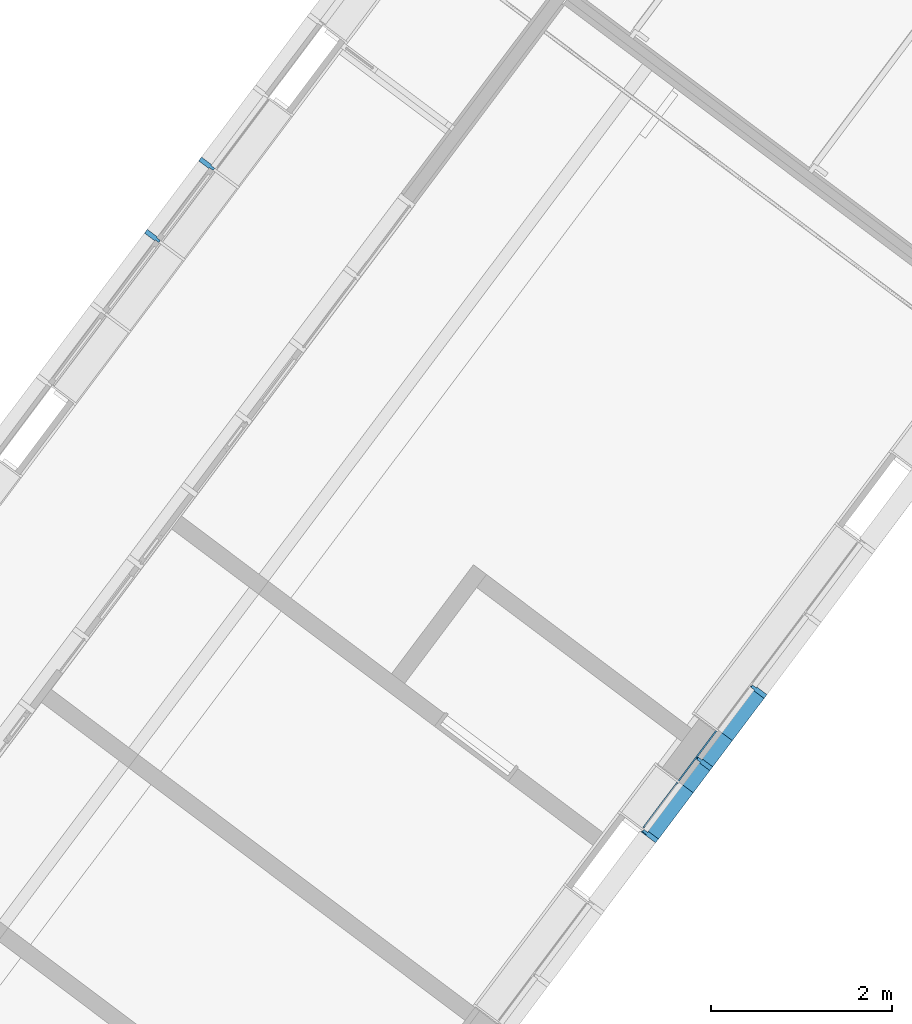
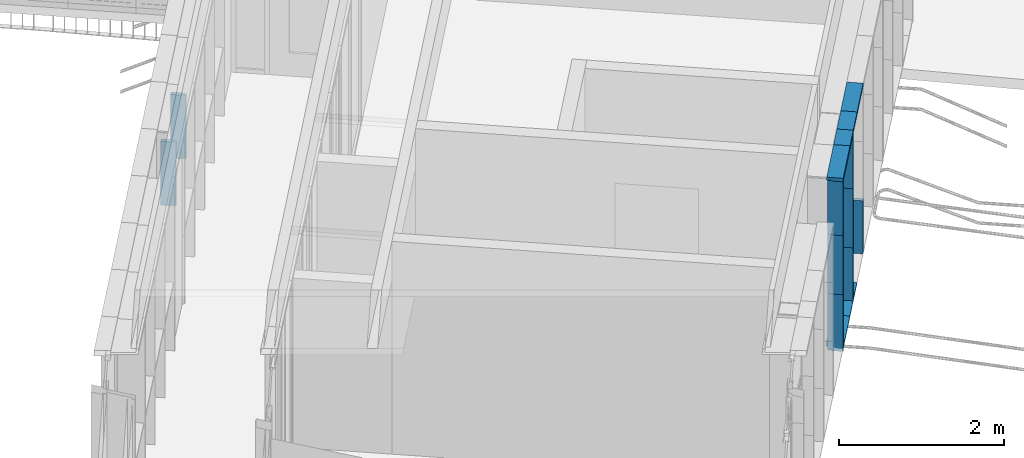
# One storey, part 87 of 243: 16 members, 2 elements without a shape of their own.
"""IFC2X3 building model written with IfcOpenShell, lengths in metres."""

from ifc_helpers import new_model, entity, si_unit, converted_unit, derived_unit, direction, frame, frame_2d, origin, place, context, subcontext, project, spatial, polyline, circle_curve, parameter, trimmed, segment, composite_curve, outline, extrude, source, transform, mapped, material, type_object, type_shapes, element, aggregate, save


model = new_model("IFC2X3")

# Units and contexts
model_context = context("Model", 3, precision=1e-05, world=origin(), true_north=direction((6.123031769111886e-17, 1.0)))
body_context = subcontext(model_context, "Body", "Model", "MODEL_VIEW")
ifc_project = project(units=[si_unit("LENGTHUNIT", "METRE"), si_unit("AREAUNIT", "SQUARE_METRE"), si_unit("VOLUMEUNIT", "CUBIC_METRE"), converted_unit("PLANEANGLEUNIT", "DEGREE", entity("IfcRatioMeasure", 0.017453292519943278), si_unit("PLANEANGLEUNIT", "RADIAN"), dimensions=[0, 0, 0, 0, 0, 0, 0]), si_unit("MASSUNIT", "GRAM", prefix="KILO"), derived_unit("MASSDENSITYUNIT", [(si_unit("MASSUNIT", "GRAM", prefix="KILO"), 1), (si_unit("LENGTHUNIT", "METRE"), -3)]), derived_unit("IONCONCENTRATIONUNIT", [(si_unit("MASSUNIT", "GRAM", prefix="KILO"), 1), (si_unit("LENGTHUNIT", "METRE"), -3)]), derived_unit("MOMENTOFINERTIAUNIT", [(si_unit("LENGTHUNIT", "METRE"), 4)]), si_unit("TIMEUNIT", "SECOND"), si_unit("FREQUENCYUNIT", "HERTZ"), si_unit("THERMODYNAMICTEMPERATUREUNIT", "DEGREE_CELSIUS"), derived_unit("THERMALTRANSMITTANCEUNIT", [(si_unit("MASSUNIT", "GRAM", prefix="KILO"), 1), (si_unit("THERMODYNAMICTEMPERATUREUNIT", "KELVIN"), -1), (si_unit("TIMEUNIT", "SECOND"), -3)]), derived_unit("THERMALCONDUCTANCEUNIT", [(si_unit("MASSUNIT", "GRAM", prefix="KILO"), 1), (si_unit("THERMODYNAMICTEMPERATUREUNIT", "KELVIN"), -1), (si_unit("TIMEUNIT", "SECOND"), -3), (si_unit("LENGTHUNIT", "METRE"), 1)]), derived_unit("VOLUMETRICFLOWRATEUNIT", [(si_unit("LENGTHUNIT", "METRE"), 3), (si_unit("TIMEUNIT", "SECOND"), -1)]), derived_unit("MASSFLOWRATEUNIT", [(si_unit("MASSUNIT", "GRAM", prefix="KILO"), 1), (si_unit("TIMEUNIT", "SECOND"), -1)]), derived_unit("ROTATIONALFREQUENCYUNIT", [(si_unit("TIMEUNIT", "SECOND"), -1)]), si_unit("ELECTRICCURRENTUNIT", "AMPERE"), si_unit("ELECTRICVOLTAGEUNIT", "VOLT"), si_unit("POWERUNIT", "WATT"), si_unit("FORCEUNIT", "NEWTON", prefix="KILO"), si_unit("ILLUMINANCEUNIT", "LUX"), si_unit("LUMINOUSFLUXUNIT", "LUMEN"), si_unit("LUMINOUSINTENSITYUNIT", "CANDELA"), derived_unit("USERDEFINED", [(si_unit("MASSUNIT", "GRAM", prefix="KILO"), -1), (si_unit("LENGTHUNIT", "METRE"), -2), (si_unit("TIMEUNIT", "SECOND"), 3), (si_unit("LUMINOUSFLUXUNIT", "LUMEN"), 1)]), derived_unit("USERDEFINED", [(si_unit("MASSUNIT", "GRAM", prefix="KILO"), 1), (si_unit("TIMEUNIT", "SECOND"), -3), (si_unit("LENGTHUNIT", "METRE"), 3), (si_unit("ELECTRICCURRENTUNIT", "AMPERE"), -2)]), derived_unit("SOUNDPOWERUNIT", [(si_unit("MASSUNIT", "GRAM", prefix="KILO"), 1), (si_unit("TIMEUNIT", "SECOND"), -3), (si_unit("LENGTHUNIT", "METRE"), 2)]), derived_unit("SOUNDPRESSUREUNIT", [(si_unit("MASSUNIT", "GRAM", prefix="KILO"), 1), (si_unit("LENGTHUNIT", "METRE"), -1), (si_unit("TIMEUNIT", "SECOND"), -2)]), derived_unit("LINEARVELOCITYUNIT", [(si_unit("LENGTHUNIT", "METRE"), 1), (si_unit("TIMEUNIT", "SECOND"), -1)]), si_unit("PRESSUREUNIT", "PASCAL"), derived_unit("USERDEFINED", [(si_unit("MASSUNIT", "GRAM", prefix="KILO"), 1), (si_unit("LENGTHUNIT", "METRE"), -2), (si_unit("TIMEUNIT", "SECOND"), -2)]), derived_unit("LINEARFORCEUNIT", [(si_unit("MASSUNIT", "GRAM", prefix="KILO"), 1), (si_unit("TIMEUNIT", "SECOND"), -2)]), derived_unit("PLANARFORCEUNIT", [(si_unit("MASSUNIT", "GRAM", prefix="KILO"), 1), (si_unit("LENGTHUNIT", "METRE"), -1), (si_unit("TIMEUNIT", "SECOND"), -2)]), derived_unit("SPECIFICHEATCAPACITYUNIT", [(si_unit("THERMODYNAMICTEMPERATUREUNIT", "KELVIN"), -1), (si_unit("LENGTHUNIT", "METRE"), 2), (si_unit("TIMEUNIT", "SECOND"), -2)]), derived_unit("HEATINGVALUEUNIT", [(si_unit("LENGTHUNIT", "METRE"), 2), (si_unit("TIMEUNIT", "SECOND"), -2)]), derived_unit("VAPORPERMEABILITYUNIT", [(si_unit("LENGTHUNIT", "METRE"), -1), (si_unit("TIMEUNIT", "SECOND"), 1)]), derived_unit("DYNAMICVISCOSITYUNIT", [(si_unit("MASSUNIT", "GRAM", prefix="KILO"), 1), (si_unit("TIMEUNIT", "SECOND"), -1), (si_unit("LENGTHUNIT", "METRE"), -1)]), derived_unit("THERMALEXPANSIONCOEFFICIENTUNIT", [(si_unit("THERMODYNAMICTEMPERATUREUNIT", "KELVIN"), -1)]), derived_unit("MODULUSOFELASTICITYUNIT", [(si_unit("MASSUNIT", "GRAM", prefix="KILO"), 1), (si_unit("LENGTHUNIT", "METRE"), -1), (si_unit("TIMEUNIT", "SECOND"), -2)]), derived_unit("ISOTHERMALMOISTURECAPACITYUNIT", [(si_unit("LENGTHUNIT", "METRE"), 3), (si_unit("MASSUNIT", "GRAM", prefix="KILO"), -1)]), derived_unit("MOISTUREDIFFUSIVITYUNIT", [(si_unit("TIMEUNIT", "SECOND"), -1), (si_unit("LENGTHUNIT", "METRE"), 2)])], contexts=[model_context])

# Site, building, storey
site_placement = place(None, frame((0.0, 0.0, 235.0), z_axis=(0.0, 0.0, 1.0), x_axis=(-0.7996477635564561, 0.6004693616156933, 0.0)))
site = spatial("IfcSite", under=ifc_project, at=site_placement, Name="Default", CompositionType="ELEMENT")
building_placement = place(site_placement, origin())
building = spatial("IfcBuilding", under=site, at=building_placement, CompositionType="ELEMENT")
storey_placement = place(building_placement, origin())
storey = spatial("IfcBuildingStorey", under=building, at=storey_placement, Name="P0- Escola", CompositionType="ELEMENT", Elevation=0.0)

# Curtain wall, members
curtain_wall_type_1 = type_object("IfcCurtainWallType", Name="Muro cortina:MC- EXT- MC2", PredefinedType="NOTDEFINED")
curtain_wall_1_placement = place(storey_placement, origin())
curtain_wall_1 = element("IfcCurtainWall", 1, at=curtain_wall_1_placement, inside=storey, type_object=curtain_wall_type_1, Name="Muro cortina:MC- EXT- MC2", ObjectType="Muro cortina:MC- EXT- MC2")
ifc_material = material(Name="_Alumini- T1- Perfil")
member_type_1 = type_object("IfcMemberType", Name="Montante rectangular:MC- Alu- 140x52,5 cm- Fa patis- Centre", PredefinedType="MULLION", material=ifc_material)
shared_shape_1 = source(origin(), body_context, "Body", "SweptSolid", [
    extrude(outline(polyline([(-0.11699999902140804, -0.026250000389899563), (0.021999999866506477, -0.026250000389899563), (0.021999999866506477, -0.01500000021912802), (0.07299999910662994, -0.01500000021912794), (0.07299999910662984, 0.015000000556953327), (0.02200000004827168, 0.015000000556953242), (0.02200000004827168, 0.026250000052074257), (-0.11699999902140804, 0.026250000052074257), (-0.11699999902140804, -0.026250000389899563)])), frame((0.0, 0.022999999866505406, -0.8400000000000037), z_axis=(0.0, 0.0, 1.0), x_axis=(0.0, -1.0, 0.0)), (0.0, 0.0, 1.0), 0.8400000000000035),
])
type_shapes(member_type_1, [shared_shape_1])
member_1_placement = place(curtain_wall_1_placement, frame((28.345147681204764, -30.415191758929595, -0.02), z_axis=(0.0, 0.0, -1.0), x_axis=(0.0, -1.0, 0.0)))
member_1 = element("IfcMember", 2, at=member_1_placement, type_object=member_type_1, material=ifc_material, Name="Montante rectangular:MC- Alu- 140x52,5 cm- Fa patis- Centre", ObjectType="Montante rectangular:MC- Alu- 140x52,5 cm- Fa patis- Centre", context=body_context, shape_type="MappedRepresentation", body=[
    mapped(shared_shape_1, transform((0.0, 0.0, 0.0), scale=1.0)),
])
member_type_2 = type_object("IfcMemberType", Name="Montante rectangular:MC- Alu- 140x52,5 cm- Fa patis- Centre", PredefinedType="MULLION", material=ifc_material)
shared_shape_2 = source(origin(), body_context, "Body", "SweptSolid", [
    extrude(outline(polyline([(-0.11699999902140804, -0.026250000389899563), (0.021999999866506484, -0.026250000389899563), (0.021999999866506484, -0.01500000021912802), (0.07299999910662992, -0.01500000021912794), (0.07299999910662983, 0.015000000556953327), (0.022000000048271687, 0.015000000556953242), (0.022000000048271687, 0.026250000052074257), (-0.11699999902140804, 0.026250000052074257), (-0.11699999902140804, -0.026250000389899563)])), frame((0.0, 0.022999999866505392, -0.7850000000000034), z_axis=(0.0, 0.0, 1.0), x_axis=(0.0, -1.0, 0.0)), (0.0, 0.0, 1.0), 0.7850000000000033),
])
type_shapes(member_type_2, [shared_shape_2])
member_2_placement = place(curtain_wall_1_placement, frame((28.345147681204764, -31.415191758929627, 0.035000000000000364), z_axis=(0.0, 0.0, -1.0), x_axis=(0.0, -1.0, 0.0)))
member_2 = element("IfcMember", 3, at=member_2_placement, type_object=member_type_2, material=ifc_material, Name="Montante rectangular:MC- Alu- 140x52,5 cm- Fa patis- Centre", ObjectType="Montante rectangular:MC- Alu- 140x52,5 cm- Fa patis- Centre", context=body_context, shape_type="MappedRepresentation", body=[
    mapped(shared_shape_2, transform((0.0, 0.0, 0.0), scale=1.0)),
])
member_3_placement = place(curtain_wall_1_placement, frame((28.34514768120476, -32.41519175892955, 0.035000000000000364), z_axis=(0.0, 0.0, -1.0), x_axis=(0.0, -1.0, 0.0)))
member_3 = element("IfcMember", 4, at=member_3_placement, type_object=member_type_2, material=ifc_material, Name="Montante rectangular:MC- Alu- 140x52,5 cm- Fa patis- Centre", ObjectType="Montante rectangular:MC- Alu- 140x52,5 cm- Fa patis- Centre", context=body_context, shape_type="MappedRepresentation", body=[
    mapped(shared_shape_2, transform((0.0, 0.0, 0.0), scale=1.0)),
])
member_type_3 = type_object("IfcMemberType", Name="Montante rectangular:MC- Alu- 140x52,5 cm- Fa patis- Centre", PredefinedType="MULLION", material=ifc_material)
shared_shape_3 = source(origin(), body_context, "Body", "SweptSolid", [
    extrude(outline(polyline([(-0.11699999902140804, -0.026250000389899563), (0.021999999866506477, -0.026250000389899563), (0.021999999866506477, -0.01500000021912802), (0.07299999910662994, -0.01500000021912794), (0.07299999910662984, 0.015000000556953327), (0.02200000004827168, 0.015000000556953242), (0.02200000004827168, 0.026250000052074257), (-0.11699999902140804, 0.026250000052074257), (-0.11699999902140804, -0.026250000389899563)])), frame((0.0, 0.022999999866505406, -0.8750000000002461), z_axis=(0.0, 0.0, 1.0), x_axis=(0.0, -1.0, 0.0)), (0.0, 0.0, 1.0), 0.8750000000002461),
])
type_shapes(member_type_3, [shared_shape_3])
member_4_placement = place(curtain_wall_1_placement, frame((28.345147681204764, -30.415191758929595, 0.8200000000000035), z_axis=(0.0, 0.0, -1.0), x_axis=(0.0, -1.0, 0.0)))
member_4 = element("IfcMember", 5, at=member_4_placement, type_object=member_type_3, material=ifc_material, Name="Montante rectangular:MC- Alu- 140x52,5 cm- Fa patis- Centre", ObjectType="Montante rectangular:MC- Alu- 140x52,5 cm- Fa patis- Centre", context=body_context, shape_type="MappedRepresentation", body=[
    mapped(shared_shape_3, transform((0.0, 0.0, 0.0), scale=1.0)),
])
member_5_placement = place(curtain_wall_1_placement, frame((28.345147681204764, -31.415191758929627, 0.8200000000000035), z_axis=(0.0, 0.0, -1.0), x_axis=(0.0, -1.0, 0.0)))
member_5 = element("IfcMember", 6, at=member_5_placement, type_object=member_type_3, material=ifc_material, Name="Montante rectangular:MC- Alu- 140x52,5 cm- Fa patis- Centre", ObjectType="Montante rectangular:MC- Alu- 140x52,5 cm- Fa patis- Centre", context=body_context, shape_type="MappedRepresentation", body=[
    mapped(shared_shape_3, transform((0.0, 0.0, 0.0), scale=1.0)),
])
member_type_4 = type_object("IfcMemberType", Name="Montante rectangular:MC- Alu- 140x52,5 cm- Fa patis- Centre", PredefinedType="MULLION", material=ifc_material)
shared_shape_4 = source(origin(), body_context, "Body", "SweptSolid", [
    extrude(outline(polyline([(-0.11699999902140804, -0.026250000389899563), (0.021999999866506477, -0.026250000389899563), (0.021999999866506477, -0.01500000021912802), (0.07299999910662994, -0.01500000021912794), (0.07299999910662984, 0.015000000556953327), (0.02200000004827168, 0.015000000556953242), (0.02200000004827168, 0.026250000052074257), (-0.11699999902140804, 0.026250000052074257), (-0.11699999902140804, -0.026250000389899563)])), frame((0.0, 0.022999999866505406, -0.79749999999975), z_axis=(0.0, 0.0, 1.0), x_axis=(0.0, -1.0, 0.0)), (0.0, 0.0, 1.0), 0.79749999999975),
])
type_shapes(member_type_4, [shared_shape_4])
member_6_placement = place(curtain_wall_1_placement, frame((28.345147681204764, -30.415191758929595, 1.6950000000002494), z_axis=(0.0, 0.0, -1.0), x_axis=(0.0, -1.0, 0.0)))
member_6 = element("IfcMember", 7, at=member_6_placement, type_object=member_type_4, material=ifc_material, Name="Montante rectangular:MC- Alu- 140x52,5 cm- Fa patis- Centre", ObjectType="Montante rectangular:MC- Alu- 140x52,5 cm- Fa patis- Centre", context=body_context, shape_type="MappedRepresentation", body=[
    mapped(shared_shape_4, transform((0.0, 0.0, 0.0), scale=1.0)),
])
member_7_placement = place(curtain_wall_1_placement, frame((28.345147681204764, -31.415191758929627, 1.6950000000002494), z_axis=(0.0, 0.0, -1.0), x_axis=(0.0, -1.0, 0.0)))
member_7 = element("IfcMember", 8, at=member_7_placement, type_object=member_type_4, material=ifc_material, Name="Montante rectangular:MC- Alu- 140x52,5 cm- Fa patis- Centre", ObjectType="Montante rectangular:MC- Alu- 140x52,5 cm- Fa patis- Centre", context=body_context, shape_type="MappedRepresentation", body=[
    mapped(shared_shape_4, transform((0.0, 0.0, 0.0), scale=1.0)),
])
member_type_5 = type_object("IfcMemberType", Name="Montante rectangular:MC- Alu- 140x52,5 cm- Fa patis- Superior", PredefinedType="MULLION", material=ifc_material)
shared_shape_5 = source(origin(), body_context, "Body", "SweptSolid", [
    extrude(outline(polyline([(-0.11366666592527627, -0.021249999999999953), (0.02633333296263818, -0.021249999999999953), (0.02633333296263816, -0.010000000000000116), (0.08733333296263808, -0.010000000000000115), (0.08733333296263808, 0.03125000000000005), (-0.11366666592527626, 0.031250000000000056), (-0.11366666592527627, -0.021249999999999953)])), frame((-0.031250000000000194, 0.027333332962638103, -0.3333333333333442), z_axis=(0.0, 0.0, 1.0), x_axis=(0.0, -1.0, 0.0)), (0.0, 0.0, 1.0), 0.3333333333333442),
])
type_shapes(member_type_5, [shared_shape_5])
member_8_placement = place(curtain_wall_1_placement, frame((28.345147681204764, -31.415191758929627, 2.545), z_axis=(0.0, -1.0, 0.0), x_axis=(0.0, 0.0, 1.0)))
member_8 = element("IfcMember", 9, at=member_8_placement, type_object=member_type_5, material=ifc_material, Name="Montante rectangular:MC- Alu- 140x52,5 cm- Fa patis- Superior", ObjectType="Montante rectangular:MC- Alu- 140x52,5 cm- Fa patis- Superior", context=body_context, shape_type="MappedRepresentation", body=[
    mapped(shared_shape_5, transform((0.0, 0.0, 0.0), scale=1.0)),
])
member_type_6 = type_object("IfcMemberType", Name="Montante rectangular:MC- Alu- 140x52,5 cm- Fa patis- inferior", PredefinedType="MULLION", material=ifc_material)
shared_shape_6 = source(origin(), body_context, "Body", "SweptSolid", [
    extrude(outline(composite_curve([segment(polyline([(0.1278672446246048, -0.0258671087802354), (0.14416724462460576, -0.025867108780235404)]), True, "CONTINUOUS"), segment(polyline([(0.14416724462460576, -0.025867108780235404), (0.1441672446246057, 0.009132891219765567)]), True, "CONTINUOUS"), segment(polyline([(0.1441672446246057, 0.009132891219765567), (0.06786724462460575, 0.009132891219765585)]), True, "CONTINUOUS"), segment(polyline([(0.06786724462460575, 0.009132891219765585), (0.06786724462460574, -0.021159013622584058)]), True, "CONTINUOUS"), segment(polyline([(0.06786724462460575, -0.02115901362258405), (-0.030132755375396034, -0.012332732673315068)]), True, "CONTINUOUS"), segment(polyline([(-0.03013275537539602, -0.012332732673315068), (-0.030132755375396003, 0.027132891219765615)]), True, "CONTINUOUS"), segment(polyline([(-0.030132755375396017, 0.02713289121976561), (-0.0021327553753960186, 0.0271328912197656)]), True, "CONTINUOUS"), segment(polyline([(-0.0021327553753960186, 0.027132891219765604), (-0.0021327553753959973, 0.029132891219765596)]), True, "CONTINUOUS"), segment(polyline([(-0.0021327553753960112, 0.029132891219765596), (-0.032132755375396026, 0.029132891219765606)]), True, "CONTINUOUS"), segment(polyline([(-0.032132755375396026, 0.029132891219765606), (-0.03213275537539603, -0.012152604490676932)]), True, "CONTINUOUS"), segment(polyline([(-0.03213275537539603, -0.012152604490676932), (-0.0701327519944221, -0.008730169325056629)]), True, "CONTINUOUS"), segment(polyline([(-0.0701327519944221, -0.008730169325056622), (-0.0701327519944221, 0.005766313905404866)]), True, "CONTINUOUS"), segment(trimmed(circle_curve(frame_2d((-0.0696327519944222, 0.005766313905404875), x_axis=(-1.0, 0.0)), 0.0004999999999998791), [parameter(269.999999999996)], [parameter(0.0)], True, "PARAMETER"), False, "CONTINUOUS"), segment(polyline([(-0.0696327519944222, 0.00626631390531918), (-0.06213275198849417, 0.006266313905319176)]), True, "CONTINUOUS"), segment(polyline([(-0.06213275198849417, 0.006266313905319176), (-0.06213275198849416, 0.008266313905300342)]), True, "CONTINUOUS"), segment(polyline([(-0.06213275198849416, 0.008266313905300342), (-0.07013275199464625, 0.008266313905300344)]), True, "CONTINUOUS"), segment(trimmed(circle_curve(frame_2d((-0.07013275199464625, 0.006266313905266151), x_axis=(0.0, 1.0)), 0.0020000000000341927), [parameter(0.0)], [parameter(90.00000002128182)], True, "PARAMETER"), True, "CONTINUOUS"), segment(polyline([(-0.07213275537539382, 0.006266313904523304), (-0.07213275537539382, -0.008730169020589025)]), True, "CONTINUOUS"), segment(trimmed(circle_curve(frame_2d((-0.07013275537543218, -0.008730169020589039), x_axis=(-1.0, 0.0)), 0.0019999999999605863), [parameter(0.0)], [parameter(84.85359280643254)], True, "PARAMETER"), True, "CONTINUOUS"), segment(polyline([(-0.07031215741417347, -0.01072210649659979), (0.06786724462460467, -0.023167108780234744)]), True, "CONTINUOUS"), segment(polyline([(0.06786724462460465, -0.023167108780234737), (0.12786724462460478, -0.023167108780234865)]), True, "CONTINUOUS"), segment(polyline([(0.12786724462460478, -0.023167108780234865), (0.1278672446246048, -0.0258671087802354)]), True, "CONTINUOUS")], self_intersect=False)), frame((-0.029132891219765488, 0.06786724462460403, -0.38849999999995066), z_axis=(0.0, 0.0, 1.0), x_axis=(0.0, -1.0, 0.0)), (0.0, 0.0, 1.0), 0.38849999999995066),
])
type_shapes(member_type_6, [shared_shape_6])
member_9_placement = place(curtain_wall_1_placement, frame((28.345147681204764, -31.415191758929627, -0.02), z_axis=(0.0, 1.0, 0.0), x_axis=(0.0, 0.0, -1.0)))
member_9 = element("IfcMember", 10, at=member_9_placement, type_object=member_type_6, material=ifc_material, Name="Montante rectangular:MC- Alu- 140x52,5 cm- Fa patis- inferior", ObjectType="Montante rectangular:MC- Alu- 140x52,5 cm- Fa patis- inferior", context=body_context, shape_type="MappedRepresentation", body=[
    mapped(shared_shape_6, transform((0.0, 0.0, 0.0), scale=1.0)),
])
member_type_7 = type_object("IfcMemberType", Name="Montante rectangular:MC- Alu- 140x52,5 cm- Fa patis- Superior", PredefinedType="MULLION", material=ifc_material)
shared_shape_7 = source(origin(), body_context, "Body", "SweptSolid", [
    extrude(outline(polyline([(-0.11366666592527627, -0.021249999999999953), (0.02633333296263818, -0.021249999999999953), (0.02633333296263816, -0.010000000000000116), (0.08733333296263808, -0.010000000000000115), (0.08733333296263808, 0.03125000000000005), (-0.11366666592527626, 0.031250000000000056), (-0.11366666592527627, -0.021249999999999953)])), frame((-0.031250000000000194, 0.027333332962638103, -0.611499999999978), z_axis=(0.0, 0.0, 1.0), x_axis=(0.0, -1.0, 0.0)), (0.0, 0.0, 1.0), 0.611499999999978),
])
type_shapes(member_type_7, [shared_shape_7])
member_10_placement = place(curtain_wall_1_placement, frame((28.34514768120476, -32.41519175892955, 2.545), z_axis=(0.0, -1.0, 0.0), x_axis=(0.0, 0.0, 1.0)))
member_10 = element("IfcMember", 11, at=member_10_placement, type_object=member_type_7, material=ifc_material, Name="Montante rectangular:MC- Alu- 140x52,5 cm- Fa patis- Superior", ObjectType="Montante rectangular:MC- Alu- 140x52,5 cm- Fa patis- Superior", context=body_context, shape_type="MappedRepresentation", body=[
    mapped(shared_shape_7, transform((0.0, 0.0, 0.0), scale=1.0)),
])
member_type_8 = type_object("IfcMemberType", Name="Montante rectangular:MC- Alu- 140x52,5 cm- Fa patis- inferior", PredefinedType="MULLION", material=ifc_material)
shared_shape_8 = source(origin(), body_context, "Body", "SweptSolid", [
    extrude(outline(composite_curve([segment(polyline([(0.1278672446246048, -0.02586710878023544), (0.14416724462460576, -0.025867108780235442)]), True, "CONTINUOUS"), segment(polyline([(0.14416724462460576, -0.025867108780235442), (0.1441672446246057, 0.00913289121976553)]), True, "CONTINUOUS"), segment(polyline([(0.1441672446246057, 0.00913289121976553), (0.06786724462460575, 0.009132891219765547)]), True, "CONTINUOUS"), segment(polyline([(0.06786724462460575, 0.009132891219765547), (0.06786724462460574, -0.021159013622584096)]), True, "CONTINUOUS"), segment(polyline([(0.06786724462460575, -0.02115901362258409), (-0.030132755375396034, -0.012332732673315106)]), True, "CONTINUOUS"), segment(polyline([(-0.03013275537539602, -0.012332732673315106), (-0.030132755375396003, 0.027132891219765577)]), True, "CONTINUOUS"), segment(polyline([(-0.030132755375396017, 0.027132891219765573), (-0.0021327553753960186, 0.027132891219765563)]), True, "CONTINUOUS"), segment(polyline([(-0.0021327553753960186, 0.027132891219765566), (-0.0021327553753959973, 0.029132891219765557)]), True, "CONTINUOUS"), segment(polyline([(-0.0021327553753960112, 0.029132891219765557), (-0.032132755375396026, 0.029132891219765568)]), True, "CONTINUOUS"), segment(polyline([(-0.032132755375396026, 0.029132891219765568), (-0.03213275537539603, -0.01215260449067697)]), True, "CONTINUOUS"), segment(polyline([(-0.03213275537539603, -0.01215260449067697), (-0.0701327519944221, -0.008730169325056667)]), True, "CONTINUOUS"), segment(polyline([(-0.0701327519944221, -0.00873016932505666), (-0.0701327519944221, 0.005766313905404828)]), True, "CONTINUOUS"), segment(trimmed(circle_curve(frame_2d((-0.0696327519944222, 0.0057663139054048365), x_axis=(-1.0, 0.0)), 0.0004999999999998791), [parameter(269.999999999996)], [parameter(0.0)], True, "PARAMETER"), False, "CONTINUOUS"), segment(polyline([(-0.0696327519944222, 0.006266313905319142), (-0.06213275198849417, 0.006266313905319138)]), True, "CONTINUOUS"), segment(polyline([(-0.06213275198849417, 0.006266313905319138), (-0.06213275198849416, 0.008266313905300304)]), True, "CONTINUOUS"), segment(polyline([(-0.06213275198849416, 0.008266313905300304), (-0.07013275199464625, 0.008266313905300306)]), True, "CONTINUOUS"), segment(trimmed(circle_curve(frame_2d((-0.07013275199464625, 0.006266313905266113), x_axis=(0.0, 1.0)), 0.0020000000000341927), [parameter(0.0)], [parameter(90.00000002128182)], True, "PARAMETER"), True, "CONTINUOUS"), segment(polyline([(-0.07213275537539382, 0.006266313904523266), (-0.07213275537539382, -0.008730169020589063)]), True, "CONTINUOUS"), segment(trimmed(circle_curve(frame_2d((-0.07013275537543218, -0.008730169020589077), x_axis=(-1.0, 0.0)), 0.0019999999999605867), [parameter(0.0)], [parameter(84.85359280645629)], True, "PARAMETER"), True, "CONTINUOUS"), segment(polyline([(-0.07031215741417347, -0.010722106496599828), (0.06786724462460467, -0.023167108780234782)]), True, "CONTINUOUS"), segment(polyline([(0.06786724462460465, -0.023167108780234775), (0.12786724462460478, -0.023167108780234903)]), True, "CONTINUOUS"), segment(polyline([(0.12786724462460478, -0.023167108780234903), (0.1278672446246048, -0.02586710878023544)]), True, "CONTINUOUS")], self_intersect=False)), frame((-0.02913289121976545, 0.06786724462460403, -0.640416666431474), z_axis=(0.0, 0.0, 1.0), x_axis=(0.0, -1.0, 0.0)), (0.0, 0.0, 1.0), 0.640416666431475),
])
type_shapes(member_type_8, [shared_shape_8])
member_11_placement = place(curtain_wall_1_placement, frame((28.345147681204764, -30.441441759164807, -0.02), z_axis=(0.0, 1.0, 0.0), x_axis=(0.0, 0.0, -1.0)))
member_11 = element("IfcMember", 12, at=member_11_placement, type_object=member_type_8, material=ifc_material, Name="Montante rectangular:MC- Alu- 140x52,5 cm- Fa patis- inferior", ObjectType="Montante rectangular:MC- Alu- 140x52,5 cm- Fa patis- inferior", context=body_context, shape_type="MappedRepresentation", body=[
    mapped(shared_shape_8, transform((0.0, 0.0, 0.0), scale=1.0)),
])
member_type_9 = type_object("IfcMemberType", Name="Montante rectangular:MC- Alu- 140x52,5 cm- Fa patis- Superior", PredefinedType="MULLION", material=ifc_material)
shared_shape_9 = source(origin(), body_context, "Body", "SweptSolid", [
    extrude(outline(polyline([(-0.11366666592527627, -0.021249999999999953), (0.02633333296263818, -0.021249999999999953), (0.02633333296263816, -0.010000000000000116), (0.08733333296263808, -0.010000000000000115), (0.08733333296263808, 0.03125000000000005), (-0.11366666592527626, 0.031250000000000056), (-0.11366666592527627, -0.021249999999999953)])), frame((-0.031250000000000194, 0.027333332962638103, -0.6929166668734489), z_axis=(0.0, 0.0, 1.0), x_axis=(0.0, -1.0, 0.0)), (0.0, 0.0, 1.0), 0.6929166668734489),
])
type_shapes(member_type_9, [shared_shape_9])
member_12_placement = place(curtain_wall_1_placement, frame((28.345147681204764, -31.08185842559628, 2.545), z_axis=(0.0, -1.0, 0.0), x_axis=(0.0, 0.0, 1.0)))
member_12 = element("IfcMember", 13, at=member_12_placement, type_object=member_type_9, material=ifc_material, Name="Montante rectangular:MC- Alu- 140x52,5 cm- Fa patis- Superior", ObjectType="Montante rectangular:MC- Alu- 140x52,5 cm- Fa patis- Superior", context=body_context, shape_type="MappedRepresentation", body=[
    mapped(shared_shape_9, transform((0.0, 0.0, 0.0), scale=1.0)),
])
member_type_10 = type_object("IfcMemberType", Name="Montante rectangular:MC- Alu- 140x52,5 cm- Fa patis- inferior", PredefinedType="MULLION", material=ifc_material)
shared_shape_10 = source(origin(), body_context, "Body", "SweptSolid", [
    extrude(outline(composite_curve([segment(polyline([(0.1278672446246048, -0.025867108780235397), (0.14416724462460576, -0.0258671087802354)]), True, "CONTINUOUS"), segment(polyline([(0.14416724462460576, -0.0258671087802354), (0.1441672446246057, 0.009132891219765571)]), True, "CONTINUOUS"), segment(polyline([(0.1441672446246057, 0.009132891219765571), (0.06786724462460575, 0.009132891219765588)]), True, "CONTINUOUS"), segment(polyline([(0.06786724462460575, 0.009132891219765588), (0.06786724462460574, -0.021159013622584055)]), True, "CONTINUOUS"), segment(polyline([(0.06786724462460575, -0.021159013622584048), (-0.030132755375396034, -0.012332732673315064)]), True, "CONTINUOUS"), segment(polyline([(-0.03013275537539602, -0.012332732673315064), (-0.030132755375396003, 0.027132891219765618)]), True, "CONTINUOUS"), segment(polyline([(-0.030132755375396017, 0.027132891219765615), (-0.0021327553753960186, 0.027132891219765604)]), True, "CONTINUOUS"), segment(polyline([(-0.0021327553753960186, 0.027132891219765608), (-0.0021327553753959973, 0.0291328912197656)]), True, "CONTINUOUS"), segment(polyline([(-0.0021327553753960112, 0.0291328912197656), (-0.032132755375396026, 0.02913289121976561)]), True, "CONTINUOUS"), segment(polyline([(-0.032132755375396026, 0.02913289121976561), (-0.03213275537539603, -0.012152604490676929)]), True, "CONTINUOUS"), segment(polyline([(-0.03213275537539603, -0.012152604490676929), (-0.0701327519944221, -0.008730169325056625)]), True, "CONTINUOUS"), segment(polyline([(-0.0701327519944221, -0.008730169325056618), (-0.0701327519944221, 0.0057663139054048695)]), True, "CONTINUOUS"), segment(trimmed(circle_curve(frame_2d((-0.0696327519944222, 0.005766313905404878), x_axis=(-1.0, 0.0)), 0.0004999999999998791), [parameter(269.999999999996)], [parameter(0.0)], True, "PARAMETER"), False, "CONTINUOUS"), segment(polyline([(-0.0696327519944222, 0.006266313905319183), (-0.06213275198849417, 0.00626631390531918)]), True, "CONTINUOUS"), segment(polyline([(-0.06213275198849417, 0.00626631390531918), (-0.06213275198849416, 0.008266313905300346)]), True, "CONTINUOUS"), segment(polyline([(-0.06213275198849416, 0.008266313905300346), (-0.07013275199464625, 0.008266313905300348)]), True, "CONTINUOUS"), segment(trimmed(circle_curve(frame_2d((-0.07013275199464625, 0.0062663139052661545), x_axis=(0.0, 1.0)), 0.0020000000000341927), [parameter(0.0)], [parameter(90.00000002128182)], True, "PARAMETER"), True, "CONTINUOUS"), segment(polyline([(-0.07213275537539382, 0.006266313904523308), (-0.07213275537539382, -0.008730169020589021)]), True, "CONTINUOUS"), segment(trimmed(circle_curve(frame_2d((-0.07013275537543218, -0.008730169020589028), x_axis=(-1.0, 0.0)), 0.001999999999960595), [parameter(0.0)], [parameter(84.85359280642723)], True, "PARAMETER"), True, "CONTINUOUS"), segment(polyline([(-0.07031215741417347, -0.010722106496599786), (0.06786724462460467, -0.02316710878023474)]), True, "CONTINUOUS"), segment(polyline([(0.06786724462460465, -0.023167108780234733), (0.12786724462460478, -0.02316710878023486)]), True, "CONTINUOUS"), segment(polyline([(0.12786724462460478, -0.02316710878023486), (0.1278672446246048, -0.025867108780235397)]), True, "CONTINUOUS")], self_intersect=False)), frame((-0.02913289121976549, 0.06786724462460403, -0.3333333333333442), z_axis=(0.0, 0.0, 1.0), x_axis=(0.0, -1.0, 0.0)), (0.0, 0.0, 1.0), 0.3333333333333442),
])
type_shapes(member_type_10, [shared_shape_10])
member_13_placement = place(curtain_wall_1_placement, frame((28.345147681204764, -31.08185842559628, -0.02), z_axis=(0.0, 1.0, 0.0), x_axis=(0.0, 0.0, -1.0)))
member_13 = element("IfcMember", 14, at=member_13_placement, type_object=member_type_10, material=ifc_material, Name="Montante rectangular:MC- Alu- 140x52,5 cm- Fa patis- inferior", ObjectType="Montante rectangular:MC- Alu- 140x52,5 cm- Fa patis- inferior", context=body_context, shape_type="MappedRepresentation", body=[
    mapped(shared_shape_10, transform((0.0, 0.0, 0.0), scale=1.0)),
])
member_type_11 = type_object("IfcMemberType", Name="Montante rectangular:MC- Alu- 140x52,5 cm- Fa patis- Superior", PredefinedType="MULLION", material=ifc_material)
shared_shape_11 = source(origin(), body_context, "Body", "SweptSolid", [
    extrude(outline(polyline([(-0.11366666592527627, -0.021249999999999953), (0.02633333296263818, -0.021249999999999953), (0.02633333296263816, -0.010000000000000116), (0.08733333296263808, -0.010000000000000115), (0.08733333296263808, 0.03125000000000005), (-0.11366666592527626, 0.031250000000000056), (-0.11366666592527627, -0.021249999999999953)])), frame((-0.031250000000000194, 0.027333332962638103, -0.38849999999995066), z_axis=(0.0, 0.0, 1.0), x_axis=(0.0, -1.0, 0.0)), (0.0, 0.0, 1.0), 0.38849999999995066),
])
type_shapes(member_type_11, [shared_shape_11])
member_14_placement = place(curtain_wall_1_placement, frame((28.345147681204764, -31.803691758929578, 2.545), z_axis=(0.0, -1.0, 0.0), x_axis=(0.0, 0.0, 1.0)))
member_14 = element("IfcMember", 15, at=member_14_placement, type_object=member_type_11, material=ifc_material, Name="Montante rectangular:MC- Alu- 140x52,5 cm- Fa patis- Superior", ObjectType="Montante rectangular:MC- Alu- 140x52,5 cm- Fa patis- Superior", context=body_context, shape_type="MappedRepresentation", body=[
    mapped(shared_shape_11, transform((0.0, 0.0, 0.0), scale=1.0)),
])
aggregate(curtain_wall_1, [member_8, member_9, member_2, member_10, member_3, member_11, member_1, member_12, member_13, member_14, member_4, member_5, member_6, member_7])

curtain_wall_type_2 = type_object("IfcCurtainWallType", Name="Muro cortina:MC- EXT- MC5", PredefinedType="NOTDEFINED")
curtain_wall_2_placement = place(storey_placement, origin())
curtain_wall_2 = element("IfcCurtainWall", 16, at=curtain_wall_2_placement, inside=storey, type_object=curtain_wall_type_2, Name="Muro cortina:MC- EXT- MC5", ObjectType="Muro cortina:MC- EXT- MC5")
member_type_12 = type_object("IfcMemberType", Name="Montante rectangular:MC- Alu- 140x52,5 cm- Fa patis- Centre", PredefinedType="MULLION", material=ifc_material)
shared_shape_12 = source(origin(), body_context, "Body", "SweptSolid", [
    extrude(outline(polyline([(-0.021999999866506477, -0.026250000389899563), (0.11699999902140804, -0.026250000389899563), (0.11699999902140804, 0.026250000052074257), (-0.02200000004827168, 0.026250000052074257), (-0.02200000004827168, 0.015000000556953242), (-0.07299999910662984, 0.015000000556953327), (-0.07299999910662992, -0.01500000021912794), (-0.021999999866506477, -0.01500000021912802), (-0.021999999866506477, -0.026250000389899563)])), frame((0.0, -0.022999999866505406, -0.9449999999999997), z_axis=(0.0, 0.0, 1.0), x_axis=(0.0, -1.0, 0.0)), (0.0, 0.0, 1.0), 0.9449999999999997),
])
type_shapes(member_type_12, [shared_shape_12])
member_15_placement = place(curtain_wall_2_placement, frame((36.64514768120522, -32.415191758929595, 0.035000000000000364), z_axis=(0.0, 0.0, -1.0), x_axis=(0.0, -1.0, 0.0)))
member_15 = element("IfcMember", 17, at=member_15_placement, type_object=member_type_12, material=ifc_material, Name="Montante rectangular:MC- Alu- 140x52,5 cm- Fa patis- Centre", ObjectType="Montante rectangular:MC- Alu- 140x52,5 cm- Fa patis- Centre", context=body_context, shape_type="MappedRepresentation", body=[
    mapped(shared_shape_12, transform((0.0, 0.0, 0.0), scale=1.0)),
])
member_16_placement = place(curtain_wall_2_placement, frame((36.64514768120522, -33.415191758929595, 0.035000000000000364), z_axis=(0.0, 0.0, -1.0), x_axis=(0.0, -1.0, 0.0)))
member_16 = element("IfcMember", 18, at=member_16_placement, type_object=member_type_12, material=ifc_material, Name="Montante rectangular:MC- Alu- 140x52,5 cm- Fa patis- Centre", ObjectType="Montante rectangular:MC- Alu- 140x52,5 cm- Fa patis- Centre", context=body_context, shape_type="MappedRepresentation", body=[
    mapped(shared_shape_12, transform((0.0, 0.0, 0.0), scale=1.0)),
])
aggregate(curtain_wall_2, [member_15, member_16])

save(model, "model.ifc")
